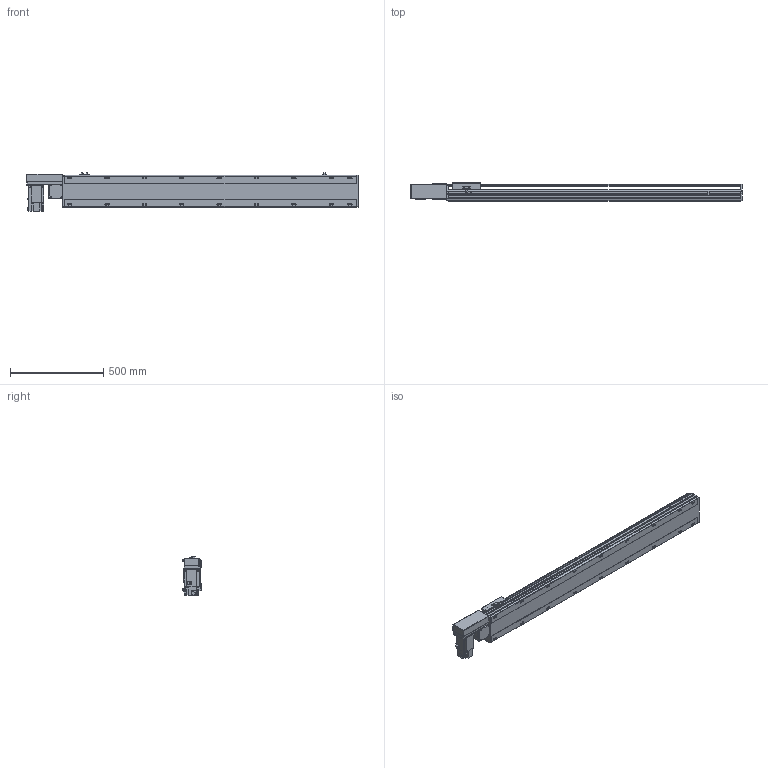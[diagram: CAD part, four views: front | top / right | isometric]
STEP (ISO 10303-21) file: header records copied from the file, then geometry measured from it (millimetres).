
FILE_DESCRIPTION(/* description */ ('STEP AP214'),/* implementation_level */ '2;1');
FILE_NAME(/* name */ 'PBS170-P40-S1300-R-T75-C1-N(0)',/* time_stamp */ '2022-06-07T09:30:27+02:00',/* author */ ('License CC BY-ND 4.0'),/* organization */ ('CADENAS'),/* preprocessor_version */ 'ST-DEVELOPER v18.102',/* originating_system */ 'PARTsolutions',/* authorisation */ ' ');
FILE_SCHEMA (('AUTOMOTIVE_DESIGN {1 0 10303 214 3 1 1}'));
Length unit declared in the file: millimetre
Products named in the file (7): PBS170-P40-S1300-R-T75-C1-N(0); PBS170_sensor; PBS170_plant; PBS170_sliser; T75-p1; PBS170T-R_motors; PBS170-S1300()_body
Assembly tree (8 placements, depth 2):
  PBS170-P40-S1300-R-T75-C1-N(0)
    PBS170_sensor  x3
    PBS170_plant
    PBS170_sliser
    T75-p1
    PBS170T-R_motors
    PBS170-S1300()_body
Bounding box: 1778 x 97 x 205.3 mm (x, y, z)
Volume: 13126932.8 mm3; surface area: 1698494 mm2
Topology: 8 solids, 8 shells, 1098 faces, 2915 edges, 1900 vertices
Faces by surface type: plane 693, cylinder 347, cone 48, sphere 8, torus 2
Full cylindrical faces by diameter (mm): 3.242 x4, 4 x2, 4.4 x4, 4.5 x6, 4.917 x4, 6 x9, 6.647 x26, 7 x2, 7.5 x4, 8 x8, 8.5 x18, 10 x4, 10.5 x18, 11 x2, 30 x2, 40 x1, 70 x1
Entity records: 31576 total; most frequent: CARTESIAN_POINT 5825, DIRECTION 5370, ORIENTED_EDGE 5088, EDGE_CURVE 2544, AXIS2_PLACEMENT_3D 1867, VERTEX_POINT 1754, LINE 1636, VECTOR 1636
